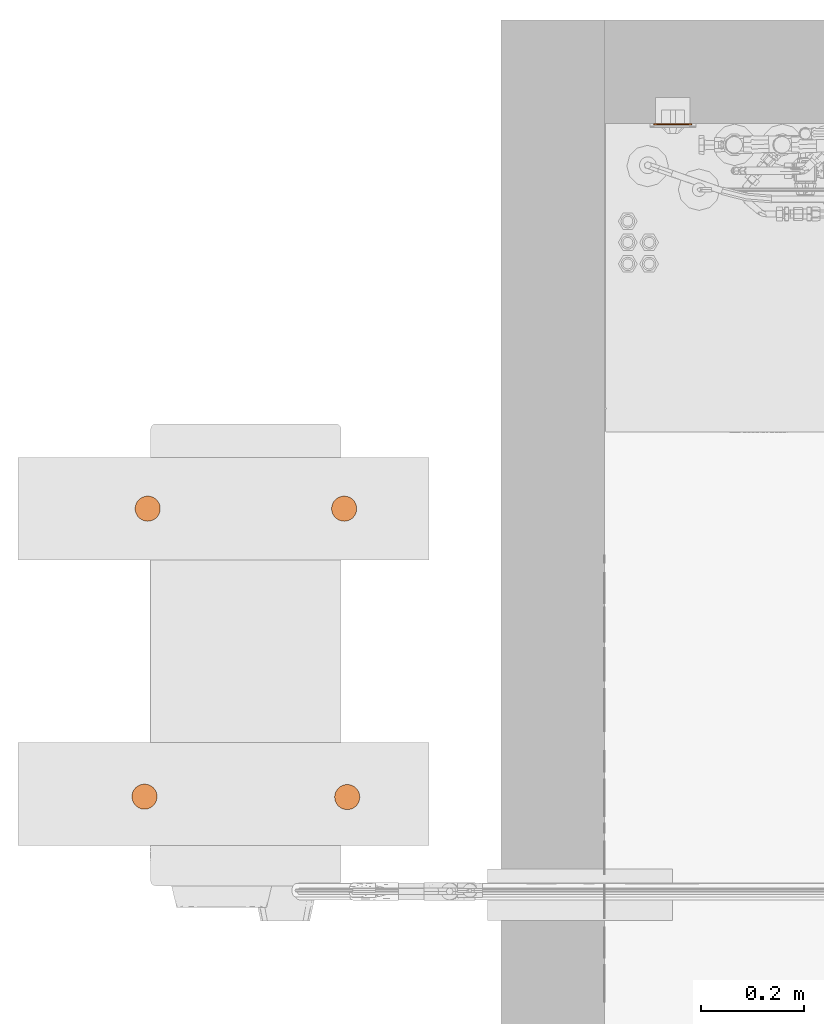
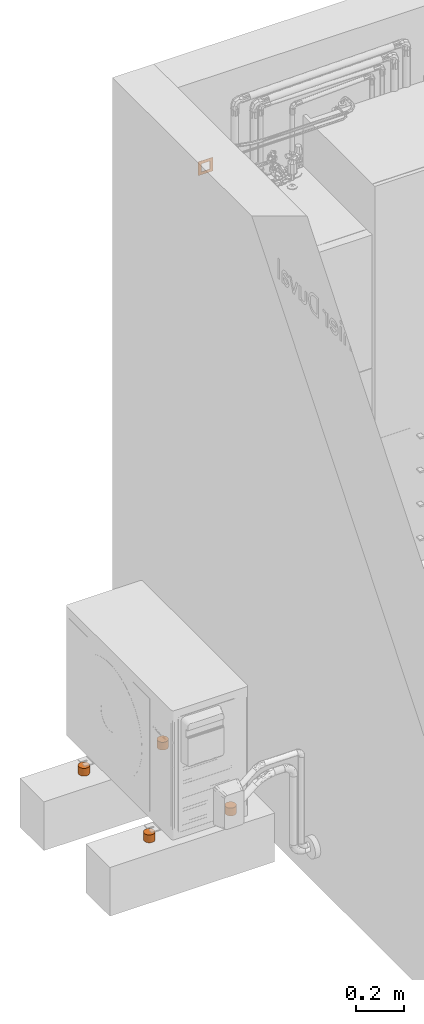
# One storey, part 27 of 30: 5 proxies.
"""IFC2X3 building model written with IfcOpenShell, lengths in metres."""

from ifc_helpers import new_model, entity, si_unit, converted_unit, derived_unit, direction, frame, frame_2d, origin, place, context, subcontext, project, spatial, polyline, circle_curve, parameter, trimmed, segment, composite_curve, circle, outline, extrude, source, transform, mapped, material, type_object, type_shapes, element, save


model = new_model("IFC2X3")

# Units and contexts
model_context = context("Model", 3, precision=1e-05, world=origin(), true_north=direction((6.123031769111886e-17, 1.0)))
body_context = subcontext(model_context, "Body", "Model", "MODEL_VIEW")
ifc_project = project(units=[si_unit("LENGTHUNIT", "METRE"), si_unit("AREAUNIT", "SQUARE_METRE"), si_unit("VOLUMEUNIT", "CUBIC_METRE"), converted_unit("PLANEANGLEUNIT", "DEGREE", entity("IfcPlaneAngleMeasure", 0.017453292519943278), si_unit("PLANEANGLEUNIT", "RADIAN"), dimensions=[0, 0, 0, 0, 0, 0, 0]), si_unit("MASSUNIT", "GRAM", prefix="KILO"), derived_unit("MASSDENSITYUNIT", [(si_unit("MASSUNIT", "GRAM", prefix="KILO"), 1), (si_unit("LENGTHUNIT", "METRE"), -3)]), derived_unit("IONCONCENTRATIONUNIT", [(si_unit("MASSUNIT", "GRAM", prefix="KILO"), 1), (si_unit("LENGTHUNIT", "METRE"), -3)]), derived_unit("MOMENTOFINERTIAUNIT", [(si_unit("LENGTHUNIT", "METRE"), 4)]), si_unit("TIMEUNIT", "SECOND"), si_unit("FREQUENCYUNIT", "HERTZ"), si_unit("THERMODYNAMICTEMPERATUREUNIT", "DEGREE_CELSIUS"), derived_unit("THERMALTRANSMITTANCEUNIT", [(si_unit("MASSUNIT", "GRAM", prefix="KILO"), 1), (si_unit("THERMODYNAMICTEMPERATUREUNIT", "KELVIN"), -1), (si_unit("TIMEUNIT", "SECOND"), -3)]), derived_unit("THERMALCONDUCTANCEUNIT", [(si_unit("MASSUNIT", "GRAM", prefix="KILO"), 1), (si_unit("THERMODYNAMICTEMPERATUREUNIT", "KELVIN"), -1), (si_unit("TIMEUNIT", "SECOND"), -3), (si_unit("LENGTHUNIT", "METRE"), 1)]), derived_unit("VOLUMETRICFLOWRATEUNIT", [(si_unit("LENGTHUNIT", "METRE", prefix="DECI"), 3), (si_unit("TIMEUNIT", "SECOND"), -1)]), derived_unit("MASSFLOWRATEUNIT", [(si_unit("MASSUNIT", "GRAM", prefix="KILO"), 1), (si_unit("TIMEUNIT", "SECOND"), -1)]), derived_unit("ROTATIONALFREQUENCYUNIT", [(si_unit("TIMEUNIT", "SECOND"), -1)]), si_unit("ELECTRICCURRENTUNIT", "AMPERE"), si_unit("ELECTRICVOLTAGEUNIT", "VOLT"), si_unit("POWERUNIT", "WATT"), si_unit("FORCEUNIT", "NEWTON", prefix="KILO"), si_unit("ILLUMINANCEUNIT", "LUX"), si_unit("LUMINOUSFLUXUNIT", "LUMEN"), si_unit("LUMINOUSINTENSITYUNIT", "CANDELA"), si_unit("ENERGYUNIT", "JOULE"), derived_unit("USERDEFINED", [(si_unit("MASSUNIT", "GRAM", prefix="KILO"), -1), (si_unit("LENGTHUNIT", "METRE"), -2), (si_unit("TIMEUNIT", "SECOND"), 3), (si_unit("LUMINOUSFLUXUNIT", "LUMEN"), 1)]), derived_unit("USERDEFINED", [(si_unit("MASSUNIT", "GRAM", prefix="KILO"), 1), (si_unit("TIMEUNIT", "SECOND"), -3), (si_unit("LENGTHUNIT", "METRE"), 3), (si_unit("ELECTRICCURRENTUNIT", "AMPERE"), -2)]), derived_unit("SOUNDPOWERUNIT", [(si_unit("MASSUNIT", "GRAM", prefix="KILO"), 1), (si_unit("TIMEUNIT", "SECOND"), -3), (si_unit("LENGTHUNIT", "METRE"), 2)]), derived_unit("SOUNDPRESSUREUNIT", [(si_unit("MASSUNIT", "GRAM", prefix="KILO"), 1), (si_unit("LENGTHUNIT", "METRE"), -1), (si_unit("TIMEUNIT", "SECOND"), -2)]), derived_unit("LINEARVELOCITYUNIT", [(si_unit("LENGTHUNIT", "METRE"), 1), (si_unit("TIMEUNIT", "SECOND"), -1)]), si_unit("PRESSUREUNIT", "PASCAL"), derived_unit("USERDEFINED", [(si_unit("MASSUNIT", "GRAM", prefix="KILO"), 1), (si_unit("LENGTHUNIT", "METRE"), -2), (si_unit("TIMEUNIT", "SECOND"), -2)]), derived_unit("LINEARFORCEUNIT", [(si_unit("MASSUNIT", "GRAM", prefix="KILO"), 1), (si_unit("TIMEUNIT", "SECOND"), -2)]), derived_unit("PLANARFORCEUNIT", [(si_unit("MASSUNIT", "GRAM", prefix="KILO"), 1), (si_unit("LENGTHUNIT", "METRE"), -1), (si_unit("TIMEUNIT", "SECOND"), -2)]), derived_unit("SPECIFICHEATCAPACITYUNIT", [(si_unit("THERMODYNAMICTEMPERATUREUNIT", "KELVIN"), -1), (si_unit("LENGTHUNIT", "METRE"), 2), (si_unit("TIMEUNIT", "SECOND"), -2)]), derived_unit("HEATFLUXDENSITYUNIT", [(si_unit("MASSUNIT", "GRAM", prefix="KILO"), 1), (si_unit("TIMEUNIT", "SECOND"), -3)]), derived_unit("HEATINGVALUEUNIT", [(si_unit("LENGTHUNIT", "METRE"), 2), (si_unit("TIMEUNIT", "SECOND"), -2)]), derived_unit("VAPORPERMEABILITYUNIT", [(si_unit("LENGTHUNIT", "METRE"), -1), (si_unit("TIMEUNIT", "SECOND"), 1)]), derived_unit("DYNAMICVISCOSITYUNIT", [(si_unit("MASSUNIT", "GRAM", prefix="KILO"), 1), (si_unit("TIMEUNIT", "SECOND"), -1), (si_unit("LENGTHUNIT", "METRE"), -1)]), derived_unit("THERMALEXPANSIONCOEFFICIENTUNIT", [(si_unit("THERMODYNAMICTEMPERATUREUNIT", "KELVIN"), -1)]), derived_unit("MODULUSOFELASTICITYUNIT", [(si_unit("MASSUNIT", "GRAM", prefix="KILO"), 1), (si_unit("LENGTHUNIT", "METRE"), -1), (si_unit("TIMEUNIT", "SECOND"), -2)]), derived_unit("ISOTHERMALMOISTURECAPACITYUNIT", [(si_unit("MASSUNIT", "GRAM", prefix="KILO"), -1), (si_unit("LENGTHUNIT", "METRE"), 3)]), derived_unit("MOISTUREDIFFUSIVITYUNIT", [(si_unit("TIMEUNIT", "SECOND"), -1), (si_unit("LENGTHUNIT", "METRE"), 2)]), derived_unit("MASSPERLENGTHUNIT", [(si_unit("MASSUNIT", "GRAM", prefix="KILO"), 1), (si_unit("LENGTHUNIT", "METRE"), -1)]), derived_unit("THERMALRESISTANCEUNIT", [(si_unit("MASSUNIT", "GRAM", prefix="KILO"), -1), (si_unit("TIMEUNIT", "SECOND"), 3), (si_unit("THERMODYNAMICTEMPERATUREUNIT", "KELVIN"), 1)]), derived_unit("ACCELERATIONUNIT", [(si_unit("LENGTHUNIT", "METRE"), 1), (si_unit("TIMEUNIT", "SECOND"), -2)]), derived_unit("ANGULARVELOCITYUNIT", [(si_unit("TIMEUNIT", "SECOND"), -1), (si_unit("PLANEANGLEUNIT", "RADIAN"), 1)]), derived_unit("LINEARSTIFFNESSUNIT", [(si_unit("MASSUNIT", "GRAM", prefix="KILO"), 1), (si_unit("TIMEUNIT", "SECOND"), -2)]), derived_unit("WARPINGCONSTANTUNIT", [(si_unit("LENGTHUNIT", "METRE"), 6)]), derived_unit("LINEARMOMENTUNIT", [(si_unit("MASSUNIT", "GRAM", prefix="KILO"), 1), (si_unit("LENGTHUNIT", "METRE"), 1), (si_unit("TIMEUNIT", "SECOND"), -2)]), derived_unit("TORQUEUNIT", [(si_unit("MASSUNIT", "GRAM", prefix="KILO"), 1), (si_unit("LENGTHUNIT", "METRE"), 2), (si_unit("TIMEUNIT", "SECOND"), -2)])], contexts=[model_context])

# Site, building, storey
site_placement = place(None, origin())
site = spatial("IfcSite", under=ifc_project, at=site_placement, Name="Default", CompositionType="ELEMENT")
building_placement = place(site_placement, origin())
building = spatial("IfcBuilding", under=site, at=building_placement, CompositionType="ELEMENT")
storey_placement = place(building_placement, origin())
storey = spatial("IfcBuildingStorey", under=building, at=storey_placement, Name="Niveau 0", CompositionType="ELEMENT", Elevation=-1.949160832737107e-14)

# Proxies
ifc_material_1 = material(Name="Valeur par défaut Nouveau Matériau")
building_element_proxy_type_1 = type_object("IfcBuildingElementProxyType", Name="Pied antivibratile ep 40:Pied antivibratile ep 40", PredefinedType="NOTDEFINED", material=ifc_material_1)
shared_shape_1 = source(origin(), body_context, "Body", "SweptSolid", [
    extrude(circle(Radius=0.0245, at=frame_2d((5.12283467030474e-19, -3.958084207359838e-17), x_axis=(1.0, 0.0))), origin(), (0.0, 0.0, 1.0), 0.04),
])
type_shapes(building_element_proxy_type_1, [shared_shape_1])
for number, where, z_axis, x_axis, name in (
    (1, (-21.509553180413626, 1.5593600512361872, -0.24999999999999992), (0.0, 0.0, 1.0), (0.0, 1.0, 0.0), "Pied antivibratile ep 40:Pied antivibratile ep 40"),
    (2, (-21.503303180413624, 2.1193600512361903, -0.24999999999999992), (0.0, 0.0, 1.0), (0.0, 1.0, 0.0), "Pied antivibratile ep 40:Pied antivibratile ep 40"),
    (3, (-21.121303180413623, 2.1193600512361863, -0.24999999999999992), (0.0, 0.0, 1.0), (0.0, 1.0, 0.0), "Pied antivibratile ep 40:Pied antivibratile ep 40"),
    (4, (-21.11534586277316, 1.5585264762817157, -0.24999999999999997), (0.0, 0.0, 1.0), (-1.0, 0.0, 0.0), "Pied antivibratile ep 40:Pied antivibratile ep 40"),
):
    element("IfcBuildingElementProxy", number, at=place(storey_placement, frame(where, z_axis=z_axis, x_axis=x_axis)), inside=storey, type_object=building_element_proxy_type_1, material=ifc_material_1, Name=name, ObjectType="Pied antivibratile ep 40:Pied antivibratile ep 40", context=body_context, shape_type="MappedRepresentation", body=[
        mapped(shared_shape_1, transform((0.0, 0.0, 0.0), scale=1.0)),
    ])
ifc_material_2 = material(Name="Plastique, noir opaque")
building_element_proxy_type_2 = type_object("IfcBuildingElementProxyType", Name="Legrand support universel-20181:1 poste", PredefinedType="NOTDEFINED", material=ifc_material_2)
shared_shape_2 = source(origin(), body_context, "Body", "SweptSolid", [
    extrude(outline(composite_curve([segment(polyline([(-0.03200000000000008, -0.03544999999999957), (0.03200000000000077, -0.03544999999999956)]), True, "CONTINUOUS"), segment(trimmed(circle_curve(frame_2d((0.032000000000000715, -0.030449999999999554), x_axis=(1.0, 0.0)), 0.005), [parameter(270.0000000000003)], [parameter(4.0711099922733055e-13)], True, "PARAMETER"), True, "CONTINUOUS"), segment(polyline([(0.037000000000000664, -0.03044999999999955), (0.037000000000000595, 0.03044999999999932)]), True, "CONTINUOUS"), segment(trimmed(circle_curve(frame_2d((0.03200000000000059, 0.030449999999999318), x_axis=(1.0, 0.0)), 0.005), [parameter(0.0)], [parameter(90.00000000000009)], True, "PARAMETER"), True, "CONTINUOUS"), segment(polyline([(0.03200000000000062, 0.03544999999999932), (-0.03200000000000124, 0.03544999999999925)]), True, "CONTINUOUS"), segment(trimmed(circle_curve(frame_2d((-0.0320000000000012, 0.03044999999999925), x_axis=(1.0, 0.0)), 0.005000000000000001), [parameter(90.0000000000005)], [parameter(179.99999999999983)], True, "PARAMETER"), True, "CONTINUOUS"), segment(polyline([(-0.037000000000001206, 0.030449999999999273), (-0.03700000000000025, -0.030449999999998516)]), True, "CONTINUOUS"), segment(trimmed(circle_curve(frame_2d((-0.03200000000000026, -0.030449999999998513), x_axis=(1.0, 0.0)), 0.005), [parameter(179.99999999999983)], [parameter(269.9999999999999)], True, "PARAMETER"), True, "CONTINUOUS")], self_intersect=False), holes=[polyline([(-0.020249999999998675, -0.020250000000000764), (-0.020249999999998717, 0.02024999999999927), (0.020250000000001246, 0.02024999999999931), (0.020250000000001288, -0.020250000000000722), (-0.020249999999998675, -0.020250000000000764)])]), frame((0.12499999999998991, 0.1015, 0.2498891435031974), z_axis=(0.0, 1.0, 0.0), x_axis=(1.0, 0.0, 0.0)), (0.0, 0.0, 1.0), 0.002000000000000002),
])
type_shapes(building_element_proxy_type_2, [shared_shape_2])
proxy_placement = place(storey_placement, frame((-20.357065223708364, 2.969026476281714, 1.8007733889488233), z_axis=(0.0, 0.0, 1.0), x_axis=(-1.0, 0.0, 0.0)))
element("IfcBuildingElementProxy", 5, at=proxy_placement, inside=storey, type_object=building_element_proxy_type_2, material=ifc_material_2, Name="Legrand support universel-20181:1 poste", ObjectType="Legrand support universel-20181:1 poste", context=body_context, shape_type="MappedRepresentation", body=[
    mapped(shared_shape_2, transform((0.0, 0.0, 0.0), scale=1.0)),
])

save(model, "model.ifc")
